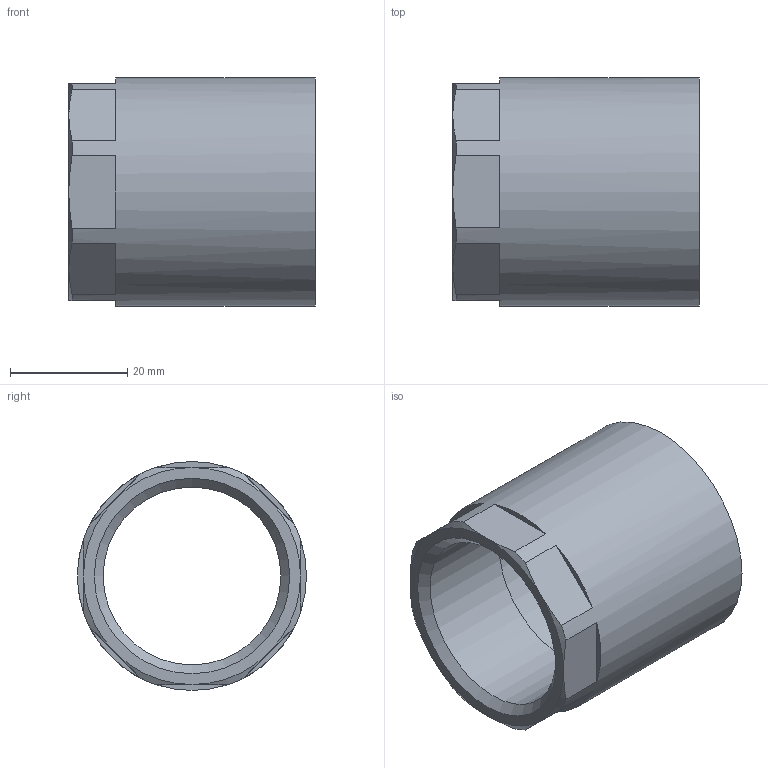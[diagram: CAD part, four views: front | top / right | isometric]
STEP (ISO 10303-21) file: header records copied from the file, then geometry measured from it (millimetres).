
FILE_DESCRIPTION((''),'2;1');
FILE_NAME('\\Lg50001\groups\SANHA Legnica\Engineering\Public\RYSUNKI\SANHA POLSKA\4270G\STEP\14270g_35-1(2).stp','2010-10-26T11:16:28',('pajchrowski'),(''),'Autodesk Inventor 2009','Autodesk Inventor 2009','');
FILE_SCHEMA(('AUTOMOTIVE_DESIGN { 1 0 10303 214 1 1 1 1 }'));
Length unit declared in the file: millimetre
Products named in the file (1): 14270g_35-1(2)
Bounding box: 42 x 39 x 39 mm (x, y, z)
Volume: 13637.1 mm3; surface area: 10253.5 mm2
Topology: 1 solids, 1 shells, 32 faces, 77 edges, 48 vertices
Faces by surface type: plane 19, cone 10, cylinder 3
Full cylindrical faces by diameter (mm): 30.291 x1, 35 x1, 39 x1
Entity records: 912 total; most frequent: CARTESIAN_POINT 183, DIRECTION 152, ORIENTED_EDGE 142, EDGE_CURVE 71, AXIS2_PLACEMENT_3D 64, VERTEX_POINT 47, EDGE_LOOP 40, FACE_OUTER_BOUND 32
